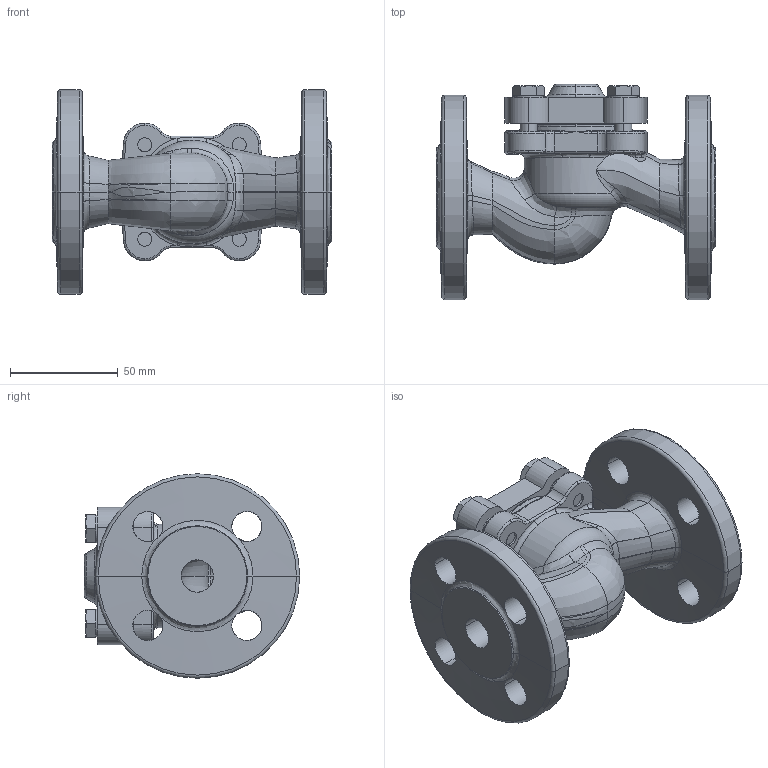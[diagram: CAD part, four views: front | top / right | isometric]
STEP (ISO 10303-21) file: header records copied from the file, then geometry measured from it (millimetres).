
FILE_DESCRIPTION (( 'STEP AP214' ), '1' );
FILE_NAME ('TCV_DN15 PN16.STEP', '2024-08-15T11:48:27', ( '' ), ( '' ), 'SwSTEP 2.0', 'SolidWorks 2023', '' );
FILE_SCHEMA (( 'AUTOMOTIVE_DESIGN' ));
Length unit declared in the file: millimetre
Products named in the file (1): TCV_DN15 PN16
Bounding box: 130 x 100 x 95 mm (x, y, z)
Volume: 311583.3 mm3; surface area: 81316.7 mm2
Topology: 6 solids, 6 shells, 455 faces, 1116 edges, 650 vertices
Faces by surface type: bspline 170, cylinder 108, plane 94, cone 56, torus 27
Entity records: 98254 total; most frequent: CARTESIAN_POINT 89154, ORIENTED_EDGE 2182, DIRECTION 1353, EDGE_CURVE 1091, VERTEX_POINT 650, AXIS2_PLACEMENT_3D 538, B_SPLINE_CURVE_WITH_KNOTS 510, EDGE_LOOP 493
